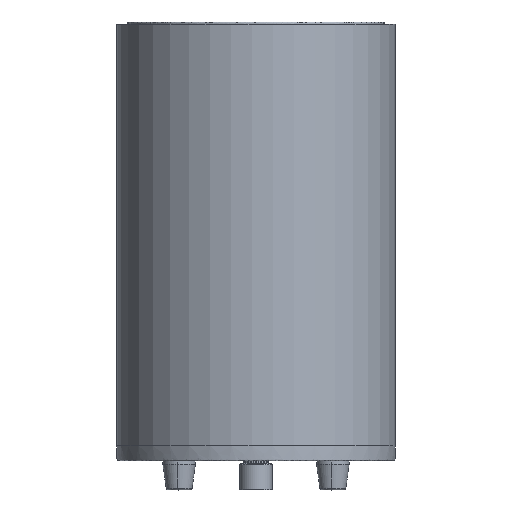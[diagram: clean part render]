
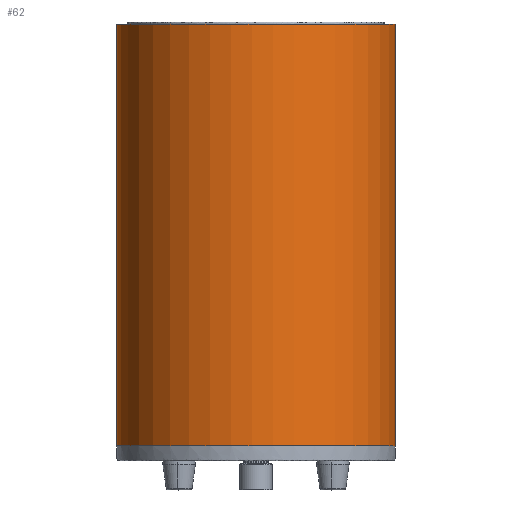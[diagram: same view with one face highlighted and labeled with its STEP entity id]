
A CAD part, front view. The second image highlights one B-rep face of the part: STEP entity #62.
In plain terms, the highlighted cylindrical face has radius 60 mm (diameter 120 mm), a partial arc.
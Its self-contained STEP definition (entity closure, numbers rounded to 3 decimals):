
#62=ADVANCED_FACE('',(#147),#1199,.T.);
#147=FACE_OUTER_BOUND('',#236,.T.);
#236=EDGE_LOOP('',(#444,#445,#446,#447));
#444=ORIENTED_EDGE('',*,*,#732,.F.);
#445=ORIENTED_EDGE('',*,*,#731,.T.);
#446=ORIENTED_EDGE('',*,*,#733,.T.);
#447=ORIENTED_EDGE('',*,*,#828,.F.);
#731=EDGE_CURVE('',#1070,#1069,#941,.T.);
#732=EDGE_CURVE('',#1070,#1127,#942,.T.);
#733=EDGE_CURVE('',#1069,#1128,#943,.T.);
#828=EDGE_CURVE('',#1127,#1128,#1012,.T.);
#941=(
BOUNDED_CURVE()
B_SPLINE_CURVE(3,(#3530,#3531,#3532,#3533),.UNSPECIFIED.,.F.,.F.)
B_SPLINE_CURVE_WITH_KNOTS((4,4),(201.658,383.158),
 .UNSPECIFIED.)
CURVE()
GEOMETRIC_REPRESENTATION_ITEM()
RATIONAL_B_SPLINE_CURVE((1.,1.,1.,1.))
REPRESENTATION_ITEM('')
);
#942=(
BOUNDED_CURVE()
B_SPLINE_CURVE(2,(#3534,#3535,#3536,#3537,#3538),.UNSPECIFIED.,.F.,.F.)
B_SPLINE_CURVE_WITH_KNOTS((3,2,3),(0.,94.248,188.496),
 .UNSPECIFIED.)
CURVE()
GEOMETRIC_REPRESENTATION_ITEM()
RATIONAL_B_SPLINE_CURVE((1.,0.707,1.,0.707,1.))
REPRESENTATION_ITEM('')
);
#943=(
BOUNDED_CURVE()
B_SPLINE_CURVE(2,(#3539,#3540,#3541,#3542,#3543),.UNSPECIFIED.,.F.,.F.)
B_SPLINE_CURVE_WITH_KNOTS((3,2,3),(0.,94.248,188.496),
 .UNSPECIFIED.)
CURVE()
GEOMETRIC_REPRESENTATION_ITEM()
RATIONAL_B_SPLINE_CURVE((1.,0.707,1.,0.707,1.))
REPRESENTATION_ITEM('')
);
#1012=(
BOUNDED_CURVE()
B_SPLINE_CURVE(3,(#3926,#3927,#3928,#3929),.UNSPECIFIED.,.F.,.F.)
B_SPLINE_CURVE_WITH_KNOTS((4,4),(201.658,383.158),
 .UNSPECIFIED.)
CURVE()
GEOMETRIC_REPRESENTATION_ITEM()
RATIONAL_B_SPLINE_CURVE((1.,1.,1.,1.))
REPRESENTATION_ITEM('')
);
#1069=VERTEX_POINT('',#3131);
#1070=VERTEX_POINT('',#3132);
#1127=VERTEX_POINT('',#3189);
#1128=VERTEX_POINT('',#3190);
#1199=CYLINDRICAL_SURFACE('',#1327,60.);
#1327=AXIS2_PLACEMENT_3D('',#2454,#1389,$);
#1389=DIRECTION('',(0.,0.,-1.));
#2454=CARTESIAN_POINT('',(300.,0.,-29.65));
#3131=CARTESIAN_POINT('',(360.,0.,61.1));
#3132=CARTESIAN_POINT('',(360.,0.,-120.4));
#3189=CARTESIAN_POINT('',(240.,0.,-120.4));
#3190=CARTESIAN_POINT('',(240.,0.,61.1));
#3530=CARTESIAN_POINT('',(360.,0.,-120.4));
#3531=CARTESIAN_POINT('',(360.,0.,-59.9));
#3532=CARTESIAN_POINT('',(360.,0.,0.6));
#3533=CARTESIAN_POINT('',(360.,0.,61.1));
#3534=CARTESIAN_POINT('',(360.,0.,-120.4));
#3535=CARTESIAN_POINT('',(360.,-60.,-120.4));
#3536=CARTESIAN_POINT('',(300.,-60.,-120.4));
#3537=CARTESIAN_POINT('',(240.,-60.,-120.4));
#3538=CARTESIAN_POINT('',(240.,0.,-120.4));
#3539=CARTESIAN_POINT('',(360.,0.,61.1));
#3540=CARTESIAN_POINT('',(360.,-60.,61.1));
#3541=CARTESIAN_POINT('',(300.,-60.,61.1));
#3542=CARTESIAN_POINT('',(240.,-60.,61.1));
#3543=CARTESIAN_POINT('',(240.,0.,61.1));
#3926=CARTESIAN_POINT('',(240.,0.,-120.4));
#3927=CARTESIAN_POINT('',(240.,0.,-59.9));
#3928=CARTESIAN_POINT('',(240.,0.,0.6));
#3929=CARTESIAN_POINT('',(240.,0.,61.1));
